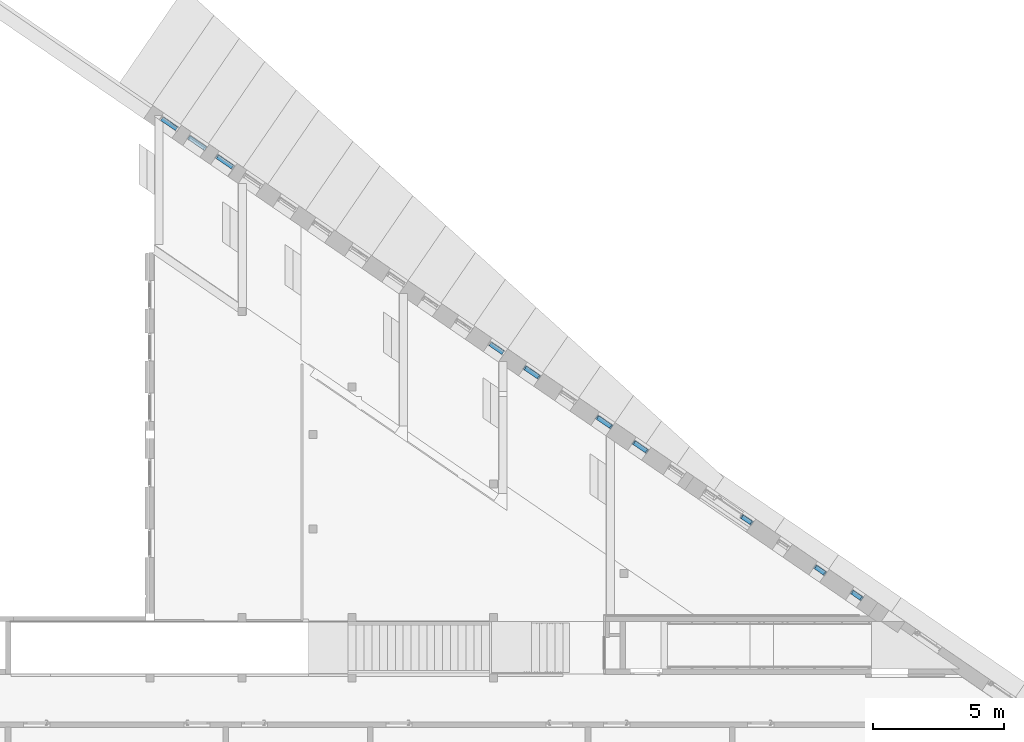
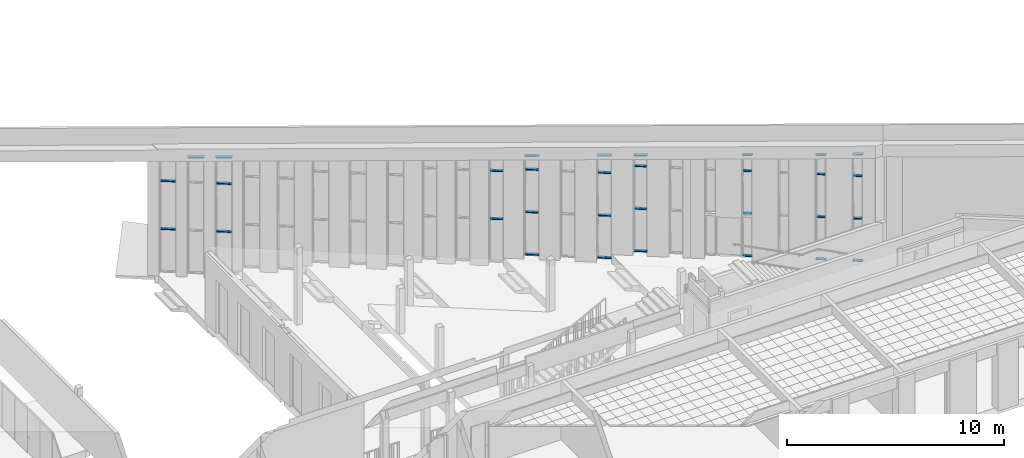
# One storey, part 19 of 79: 32 members, 10 elements without a shape of their own.
"""IFC2X3 building model written with IfcOpenShell, lengths in millimetres."""

from ifc_helpers import new_model, entity, si_unit, converted_unit, derived_unit, money_unit, direction, frame, origin_with_axes, place, context, subcontext, project, spatial, faceted_brep, source, transform, mapped, material, type_object, element, aggregate, save


model = new_model("IFC2X3")

# Units and contexts
model_context = context("Model", 3, precision=0.01, world=origin_with_axes(), true_north=direction((0.0, 1.0)))
body_context = subcontext(model_context, "Body", "Model", "MODEL_VIEW")
ifc_project = project(units=[si_unit("LENGTHUNIT", "METRE", prefix="MILLI"), si_unit("AREAUNIT", "SQUARE_METRE"), si_unit("VOLUMEUNIT", "CUBIC_METRE"), converted_unit("PLANEANGLEUNIT", "DEGREE", entity("IfcPlaneAngleMeasure", 0.0174532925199), si_unit("PLANEANGLEUNIT", "RADIAN"), dimensions=[0, 0, 0, 0, 0, 0, 0]), si_unit("SOLIDANGLEUNIT", "STERADIAN"), money_unit("EUR"), converted_unit("TIMEUNIT", "Year", entity("IfcTimeMeasure", 31556926.0), si_unit("TIMEUNIT", "SECOND"), dimensions=[0, 0, 1, 0, 0, 0, 0]), si_unit("MASSUNIT", "GRAM", prefix="KILO"), si_unit("THERMODYNAMICTEMPERATUREUNIT", "DEGREE_CELSIUS"), si_unit("LUMINOUSINTENSITYUNIT", "LUMEN"), si_unit("ENERGYUNIT", "JOULE", prefix="MEGA"), derived_unit("THERMALCONDUCTANCEUNIT", [(si_unit("POWERUNIT", "WATT"), 1), (si_unit("LENGTHUNIT", "METRE"), -1), (si_unit("THERMODYNAMICTEMPERATUREUNIT", "KELVIN"), -1)]), derived_unit("SPECIFICHEATCAPACITYUNIT", [(si_unit("ENERGYUNIT", "JOULE"), 1), (si_unit("MASSUNIT", "GRAM", prefix="KILO"), -1), (si_unit("THERMODYNAMICTEMPERATUREUNIT", "KELVIN"), -1)]), derived_unit("MASSDENSITYUNIT", [(si_unit("MASSUNIT", "GRAM", prefix="KILO"), 1), (si_unit("VOLUMEUNIT", "CUBIC_METRE"), -1)])], contexts=[model_context])

# Site, building, storey
site_placement = place(None, origin_with_axes())
site = spatial("IfcSite", under=ifc_project, at=site_placement, Name="L.Koidula tn 11b", CompositionType="ELEMENT")
building_placement = place(site_placement, origin_with_axes())
building = spatial("IfcBuilding", under=site, at=building_placement, Name="Rakvere Riigigümnaasium", CompositionType="ELEMENT")
storey_placement = place(building_placement, frame((0.0, 0.0, 3720.0), z_axis=(0.0, 0.0, 1.0), x_axis=(1.0, 0.0, 0.0)))
storey = spatial("IfcBuildingStorey", under=building, at=storey_placement, Name="2.korrus +3,72", CompositionType="ELEMENT", Elevation=3720.0)

# Curtain wall, members
curtain_wall_type = type_object("IfcCurtainWallType", Name="Curtain Wall Type", PredefinedType="NOTDEFINED")
curtain_wall_1_placement = place(storey_placement, frame((76782.8909829, 23814.6943938, 465.0), z_axis=(0.0, 0.0, 1.0), x_axis=(1.0, 0.0, 0.0)))
curtain_wall_1 = element("IfcCurtainWall", 1, at=curtain_wall_1_placement, inside=storey, type_object=curtain_wall_type, Name="KLF-06-07")
ifc_material = material(Name="Alumiiniumprofiil (RAL 7021)")
member_type_1 = type_object("IfcMemberType", Name="Transom Frame 50 x 170", PredefinedType="MULLION")
shared_shape_1 = source(origin_with_axes(), body_context, "Body", "Brep", [
    faceted_brep([(12.0, -26.0, 599.999961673), (12.0, 26.0, 599.999961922), (25.0, 26.0, 599.999961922), (25.0, 46.0, 599.999962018), (-25.0, 46.0, 599.999962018), (-25.0, 26.0, 599.999961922), (-12.0, 26.0, 599.999961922), (-12.0, -26.0, 599.999961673), (-25.0, -26.0, 599.999961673), (-25.0, -124.0, 599.999961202), (25.0, -124.0, 599.999961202), (25.0, -26.0, 599.999961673), (12.0, -26.0, 50.0), (12.0, 26.0, 50.0), (25.0, 26.0, 50.0), (25.0, 46.0, 50.0), (-25.0, 46.0, 50.0), (-25.0, 26.0, 50.0), (-12.0, 26.0, 50.0), (-12.0, -26.0, 50.0), (-25.0, -26.0, 50.0), (-25.0, -124.0, 50.0), (25.0, -124.0, 50.0), (25.0, -26.0, 50.0)], [[[0, 1, 2, 3, 4, 5, 6, 7, 8, 9, 10, 11]], [[0, 12, 13, 1]], [[1, 13, 14, 2]], [[14, 15, 3, 2]], [[4, 3, 15, 16]], [[17, 5, 4, 16]], [[5, 17, 18, 6]], [[7, 6, 18, 19]], [[8, 7, 19, 20]], [[8, 20, 21, 9]], [[10, 9, 21, 22]], [[11, 10, 22, 23]], [[11, 23, 12, 0]], [[13, 12, 23, 22, 21, 20, 19, 18, 17, 16, 15, 14]]]),
])
member_1_placement = place(curtain_wall_1_placement, frame((-268.0166193, 183.826452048, 4800.00006484), z_axis=(0.824666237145, -0.565619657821, 0.0), x_axis=(0.0, 0.0, 1.0)))
member_1 = element("IfcMember", 2, at=member_1_placement, type_object=member_type_1, material=ifc_material, Name="KLF-06-07-Profiilid", ObjectType="MULLION", context=body_context, shape_type="MappedRepresentation", body=[
    mapped(shared_shape_1, transform((0.0, 0.0, 0.0), x_axis=(-1.0, 0.0, 0.0), y_axis=(0.0, -1.0, 0.0), z_axis=(0.0, 0.0, 1.0))),
])
member_2_placement = place(curtain_wall_1_placement, frame((-268.0166193, 183.826452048, 2400.00006484), z_axis=(0.824666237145, -0.565619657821, 0.0), x_axis=(0.0, 0.0, 1.0)))
member_2 = element("IfcMember", 3, at=member_2_placement, type_object=member_type_1, material=ifc_material, Name="KLF-06-07-Profiilid", ObjectType="MULLION", context=body_context, shape_type="MappedRepresentation", body=[
    mapped(shared_shape_1, transform((0.0, 0.0, 0.0), x_axis=(-1.0, 0.0, 0.0), y_axis=(0.0, -1.0, 0.0), z_axis=(0.0, 0.0, 1.0))),
])

curtain_wall_2_placement = place(storey_placement, frame((71295.0958138, 27578.652128, -465.0), z_axis=(0.0, 0.0, 1.0), x_axis=(1.0, 0.0, 0.0)))
curtain_wall_2 = element("IfcCurtainWall", 4, at=curtain_wall_2_placement, inside=storey, type_object=curtain_wall_type, Name="KLF-06-11")
shared_shape_2 = source(origin_with_axes(), body_context, "Body", "Brep", [
    faceted_brep([(12.0, -26.0, 650.000041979), (12.0, 26.0, 650.000042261), (25.0, 26.0, 650.000042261), (25.0, 46.0, 650.00004237), (-25.0, 46.0, 650.00004237), (-25.0, 26.0, 650.000042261), (-12.0, 26.0, 650.000042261), (-12.0, -26.0, 650.000041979), (-25.0, -26.0, 650.000041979), (-25.0, -124.0, 650.000041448), (25.0, -124.0, 650.000041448), (25.0, -26.0, 650.000041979), (12.0, -26.0, 50.0), (12.0, 26.0, 50.0), (25.0, 26.0, 50.0), (25.0, 46.0, 50.0), (-25.0, 46.0, 50.0), (-25.0, 26.0, 50.0), (-12.0, 26.0, 50.0), (-12.0, -26.0, 50.0), (-25.0, -26.0, 50.0), (-25.0, -124.0, 50.0), (25.0, -124.0, 50.0), (25.0, -26.0, 50.0)], [[[0, 1, 2, 3, 4, 5, 6, 7, 8, 9, 10, 11]], [[0, 12, 13, 1]], [[1, 13, 14, 2]], [[14, 15, 3, 2]], [[4, 3, 15, 16]], [[17, 5, 4, 16]], [[5, 17, 18, 6]], [[7, 6, 18, 19]], [[8, 7, 19, 20]], [[8, 20, 21, 9]], [[10, 9, 21, 22]], [[11, 10, 22, 23]], [[11, 23, 12, 0]], [[13, 12, 23, 22, 21, 20, 19, 18, 17, 16, 15, 14]]]),
])
member_3_placement = place(curtain_wall_2_placement, frame((-288.633107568, 197.9668285, 5100.00006484), z_axis=(0.824666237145, -0.565619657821, 0.0), x_axis=(0.0, 0.0, 1.0)))
member_3 = element("IfcMember", 5, at=member_3_placement, type_object=member_type_1, material=ifc_material, Name="KLF-06-11-Profiilid", ObjectType="MULLION", context=body_context, shape_type="MappedRepresentation", body=[
    mapped(shared_shape_2, transform((0.0, 0.0, 0.0), x_axis=(-1.0, 0.0, 0.0), y_axis=(0.0, -1.0, 0.0), z_axis=(0.0, 0.0, 1.0))),
])
member_4_placement = place(curtain_wall_2_placement, frame((-288.633107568, 197.9668285, 2400.00006484), z_axis=(0.824666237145, -0.565619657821, 0.0), x_axis=(0.0, 0.0, 1.0)))
member_4 = element("IfcMember", 6, at=member_4_placement, type_object=member_type_1, material=ifc_material, Name="KLF-06-11-Profiilid", ObjectType="MULLION", context=body_context, shape_type="MappedRepresentation", body=[
    mapped(shared_shape_2, transform((0.0, 0.0, 0.0), x_axis=(-1.0, 0.0, 0.0), y_axis=(0.0, -1.0, 0.0), z_axis=(0.0, 0.0, 1.0))),
])
aggregate(curtain_wall_2, [member_3, member_4])

curtain_wall_3_placement = place(storey_placement, frame((72639.3001548, 26656.6898396, 0.0), z_axis=(0.0, 0.0, 1.0), x_axis=(1.0, 0.0, 0.0)))
curtain_wall_3 = element("IfcCurtainWall", 7, at=curtain_wall_3_placement, inside=storey, type_object=curtain_wall_type, Name="KLF-06-10")
member_5_placement = place(curtain_wall_3_placement, frame((-288.633054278, 197.966791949, 4800.00006484), z_axis=(0.824666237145, -0.565619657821, 0.0), x_axis=(0.0, 0.0, 1.0)))
member_5 = element("IfcMember", 8, at=member_5_placement, type_object=member_type_1, material=ifc_material, Name="KLF-06-10-Profiilid", ObjectType="MULLION", context=body_context, shape_type="MappedRepresentation", body=[
    mapped(shared_shape_2, transform((0.0, 0.0, 0.0), x_axis=(-1.0, 0.0, 0.0), y_axis=(0.0, -1.0, 0.0), z_axis=(0.0, 0.0, 1.0))),
])
member_6_placement = place(curtain_wall_3_placement, frame((-288.633054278, 197.966791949, 2400.00006484), z_axis=(0.824666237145, -0.565619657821, 0.0), x_axis=(0.0, 0.0, 1.0)))
member_6 = element("IfcMember", 9, at=member_6_placement, type_object=member_type_1, material=ifc_material, Name="KLF-06-10-Profiilid", ObjectType="MULLION", context=body_context, shape_type="MappedRepresentation", body=[
    mapped(shared_shape_2, transform((0.0, 0.0, 0.0), x_axis=(-1.0, 0.0, 0.0), y_axis=(0.0, -1.0, 0.0), z_axis=(0.0, 0.0, 1.0))),
])

curtain_wall_4_placement = place(storey_placement, frame((75401.9316286, 24761.8632578, 0.0), z_axis=(0.0, 0.0, 1.0), x_axis=(1.0, 0.0, 0.0)))
curtain_wall_4 = element("IfcCurtainWall", 10, at=curtain_wall_4_placement, inside=storey, type_object=curtain_wall_type, Name="KLF-06-08")
member_7_placement = place(curtain_wall_4_placement, frame((-288.633070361, 197.96680298, 4800.00006484), z_axis=(0.824666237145, -0.565619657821, 0.0), x_axis=(0.0, 0.0, 1.0)))
member_7 = element("IfcMember", 11, at=member_7_placement, type_object=member_type_1, material=ifc_material, Name="KLF-06-08-Profiilid", ObjectType="MULLION", context=body_context, shape_type="MappedRepresentation", body=[
    mapped(shared_shape_2, transform((0.0, 0.0, 0.0), x_axis=(-1.0, 0.0, 0.0), y_axis=(0.0, -1.0, 0.0), z_axis=(0.0, 0.0, 1.0))),
])
member_8_placement = place(curtain_wall_4_placement, frame((-288.633070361, 197.96680298, 2400.00006484), z_axis=(0.824666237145, -0.565619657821, 0.0), x_axis=(0.0, 0.0, 1.0)))
member_8 = element("IfcMember", 12, at=member_8_placement, type_object=member_type_1, material=ifc_material, Name="KLF-06-08-Profiilid", ObjectType="MULLION", context=body_context, shape_type="MappedRepresentation", body=[
    mapped(shared_shape_2, transform((0.0, 0.0, 0.0), x_axis=(-1.0, 0.0, 0.0), y_axis=(0.0, -1.0, 0.0), z_axis=(0.0, 0.0, 1.0))),
])

# Member
member_type_2 = type_object("IfcMemberType", Name="Boundary Frame 50 x 170", PredefinedType="MULLION")
shared_shape_3 = source(origin_with_axes(), body_context, "Body", "Brep", [
    faceted_brep([(-37.0, -26.0, 612.999970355), (-50.0, -26.0, 599.999970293), (-50.0, -124.0, 599.999970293), (0.0, -124.0, 649.999970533), (0.0, 46.0, 649.999970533), (-50.0, 46.0, 599.999970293), (-50.0, 26.0, 599.999970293), (-37.0, 26.0, 612.999970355), (-37.0, -26.0, 37.0), (-50.0, -26.0, 50.0), (-50.0, -124.0, 50.0), (0.0, -124.0, 0.0), (0.0, 46.0, 0.0), (-50.0, 46.0, 50.0), (-50.0, 26.0, 50.0), (-37.0, 26.0, 37.0)], [[[0, 1, 2, 3, 4, 5, 6, 7]], [[0, 8, 9, 1]], [[9, 10, 2, 1]], [[2, 10, 11, 3]], [[3, 11, 12, 4]], [[4, 12, 13, 5]], [[6, 5, 13, 14]], [[14, 15, 7, 6]], [[7, 15, 8, 0]], [[8, 15, 14, 13, 12, 11, 10, 9]]]),
])
member_9_placement = place(curtain_wall_1_placement, frame((-268.016685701, 183.826497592, 0.0), z_axis=(0.824666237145, -0.565619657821, 0.0), x_axis=(0.0, 0.0, 1.0)))
member_9 = element("IfcMember", 13, at=member_9_placement, type_object=member_type_2, material=ifc_material, Name="KLF-06-16-Profiilid", ObjectType="MULLION", context=body_context, shape_type="MappedRepresentation", body=[
    mapped(shared_shape_3, transform((0.0, 0.0, 0.0), x_axis=(-1.0, 0.0, 0.0), y_axis=(0.0, -1.0, 0.0), z_axis=(0.0, 0.0, 1.0))),
])

# Curtain wall, members
curtain_wall_5_placement = place(storey_placement, frame((80844.1957644, 21028.8193943, 465.0), z_axis=(0.0, 0.0, 1.0), x_axis=(1.0, 0.0, 0.0)))
curtain_wall_5 = element("IfcCurtainWall", 14, at=curtain_wall_5_placement, inside=storey, type_object=curtain_wall_type, Name="KLF-06-04")
shared_shape_4 = source(origin_with_axes(), body_context, "Body", "Brep", [
    faceted_brep([(12.0, -26.0, 449.999826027), (12.0, 26.0, 449.999829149), (25.0, 26.0, 449.999829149), (25.0, 46.0, 449.999830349), (-25.0, 46.0, 449.999830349), (-25.0, 26.0, 449.999829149), (-12.0, 26.0, 449.999829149), (-12.0, -26.0, 449.999826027), (-25.0, -26.0, 449.999826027), (-25.0, -124.0, 449.999820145), (25.0, -124.0, 449.999820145), (25.0, -26.0, 449.999826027), (12.0, -26.0, 50.0000065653), (12.0, 26.0, 49.9999934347), (25.0, 26.0, 49.9999934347), (25.0, 46.0, 49.9999883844), (-25.0, 46.0, 49.9999883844), (-25.0, 26.0, 49.9999934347), (-12.0, 26.0, 49.9999934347), (-12.0, -26.0, 50.0000065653), (-25.0, -26.0, 50.0000065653), (-25.0, -124.0, 50.0000313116), (25.0, -124.0, 50.0000313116), (25.0, -26.0, 50.0000065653)], [[[0, 1, 2, 3, 4, 5, 6, 7, 8, 9, 10, 11]], [[0, 12, 13, 1]], [[1, 13, 14, 2]], [[14, 15, 3, 2]], [[4, 3, 15, 16]], [[17, 5, 4, 16]], [[5, 17, 18, 6]], [[7, 6, 18, 19]], [[8, 7, 19, 20]], [[8, 20, 21, 9]], [[10, 9, 21, 22]], [[11, 10, 22, 23]], [[11, 23, 12, 0]], [[13, 12, 23, 22, 21, 20, 19, 18, 17, 16, 15, 14]]]),
])
member_10_placement = place(curtain_wall_5_placement, frame((-206.166336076, 141.404761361, 4800.00006484), z_axis=(0.824666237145, -0.565619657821, 0.0), x_axis=(0.0, 0.0, 1.0)))
member_10 = element("IfcMember", 15, at=member_10_placement, type_object=member_type_1, material=ifc_material, Name="KLF-06-04-Profiilid", ObjectType="MULLION", context=body_context, shape_type="MappedRepresentation", body=[
    mapped(shared_shape_4, transform((0.0, 0.0, 0.0), x_axis=(-1.0, 0.0, 0.0), y_axis=(0.0, -1.0, 0.0), z_axis=(0.0, 0.0, 1.0))),
])
member_11_placement = place(curtain_wall_5_placement, frame((-206.166336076, 141.404761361, 2400.00006484), z_axis=(0.824666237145, -0.565619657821, 0.0), x_axis=(0.0, 0.0, 1.0)))
member_11 = element("IfcMember", 16, at=member_11_placement, type_object=member_type_1, material=ifc_material, Name="KLF-06-04-Profiilid", ObjectType="MULLION", context=body_context, shape_type="MappedRepresentation", body=[
    mapped(shared_shape_4, transform((0.0, 0.0, 0.0), x_axis=(-1.0, 0.0, 0.0), y_axis=(0.0, -1.0, 0.0), z_axis=(0.0, 0.0, 1.0))),
])

curtain_wall_6_placement = place(storey_placement, frame((83648.21223, 19105.9329046, 464.999957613), z_axis=(0.0, 0.0, 1.0), x_axis=(1.0, 0.0, 0.0)))
curtain_wall_6 = element("IfcCurtainWall", 17, at=curtain_wall_6_placement, inside=storey, type_object=curtain_wall_type, Name="KLF-06-02")
member_12_placement = place(curtain_wall_6_placement, frame((-206.166491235, 141.40486778, 4800.00010722), z_axis=(0.824666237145, -0.565619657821, 0.0), x_axis=(0.0, 0.0, 1.0)))
member_12 = element("IfcMember", 18, at=member_12_placement, type_object=member_type_1, material=ifc_material, Name="KLF-06-36-Profiilid", ObjectType="MULLION", context=body_context, shape_type="MappedRepresentation", body=[
    mapped(shared_shape_4, transform((0.0, 0.0, 0.0), x_axis=(-1.0, 0.0, 0.0), y_axis=(0.0, -1.0, 0.0), z_axis=(0.0, 0.0, 1.0))),
])
member_13_placement = place(curtain_wall_6_placement, frame((-206.166491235, 141.40486778, 2400.00010722), z_axis=(0.824666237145, -0.565619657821, 0.0), x_axis=(0.0, 0.0, 1.0)))
member_13 = element("IfcMember", 19, at=member_13_placement, type_object=member_type_1, material=ifc_material, Name="KLF-06-37-Profiilid", ObjectType="MULLION", context=body_context, shape_type="MappedRepresentation", body=[
    mapped(shared_shape_4, transform((0.0, 0.0, 0.0), x_axis=(-1.0, 0.0, 0.0), y_axis=(0.0, -1.0, 0.0), z_axis=(0.0, 0.0, 1.0))),
])

curtain_wall_7_placement = place(storey_placement, frame((85050.1449307, 18144.3794194, 464.999921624), z_axis=(0.0, 0.0, 1.0), x_axis=(1.0, 0.0, 0.0)))
curtain_wall_7 = element("IfcCurtainWall", 20, at=curtain_wall_7_placement, inside=storey, type_object=curtain_wall_type, Name="KLF-06-01")
member_14_placement = place(curtain_wall_7_placement, frame((-206.166494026, 141.404869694, 2400.00014321), z_axis=(0.824666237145, -0.565619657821, 0.0), x_axis=(0.0, 0.0, 1.0)))
member_14 = element("IfcMember", 21, at=member_14_placement, type_object=member_type_1, material=ifc_material, Name="KLF-06-01-Profiilid", ObjectType="MULLION", context=body_context, shape_type="MappedRepresentation", body=[
    mapped(shared_shape_4, transform((0.0, 0.0, 0.0), x_axis=(-1.0, 0.0, 0.0), y_axis=(0.0, -1.0, 0.0), z_axis=(0.0, 0.0, 1.0))),
])
member_15_placement = place(curtain_wall_7_placement, frame((-206.166494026, 141.404869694, 4800.00014321), z_axis=(0.824666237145, -0.565619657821, 0.0), x_axis=(0.0, 0.0, 1.0)))
member_15 = element("IfcMember", 22, at=member_15_placement, type_object=member_type_1, material=ifc_material, Name="KLF-06-01-Profiilid", ObjectType="MULLION", context=body_context, shape_type="MappedRepresentation", body=[
    mapped(shared_shape_4, transform((0.0, 0.0, 0.0), x_axis=(-1.0, 0.0, 0.0), y_axis=(0.0, -1.0, 0.0), z_axis=(0.0, 0.0, 1.0))),
])

# Member
shared_shape_5 = source(origin_with_axes(), body_context, "Body", "Brep", [
    faceted_brep([(-37.0, -26.0, 663.000011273), (-50.0, -26.0, 650.000011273), (-50.0, -124.0, 650.000011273), (0.0, -124.0, 700.000011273), (0.0, 46.0, 700.000011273), (-50.0, 46.0, 650.000011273), (-50.0, 26.0, 650.000011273), (-37.0, 26.0, 663.000011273), (-37.0, -26.0, 37.0000013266), (-50.0, -26.0, 50.0000017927), (-50.0, -124.0, 50.0000017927), (0.0, -124.0, 0.0), (0.0, 46.0, 0.0), (-50.0, 46.0, 50.0000017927), (-50.0, 26.0, 50.0000017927), (-37.0, 26.0, 37.0000013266)], [[[0, 1, 2, 3, 4, 5, 6, 7]], [[0, 8, 9, 1]], [[9, 10, 2, 1]], [[2, 10, 11, 3]], [[3, 11, 12, 4]], [[4, 12, 13, 5]], [[6, 5, 13, 14]], [[14, 15, 7, 6]], [[7, 15, 8, 0]], [[8, 15, 14, 13, 12, 11, 10, 9]]]),
])
member_16_placement = place(curtain_wall_3_placement, frame((-288.633122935, 197.966839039, 0.0), z_axis=(0.824666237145, -0.565619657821, 0.0), x_axis=(0.0, 0.0, 1.0)))
member_16 = element("IfcMember", 23, at=member_16_placement, type_object=member_type_2, material=ifc_material, Name="KLF-06-19-Profiilid", ObjectType="MULLION", context=body_context, shape_type="MappedRepresentation", body=[
    mapped(shared_shape_5, transform((0.0, 0.0, 0.0), x_axis=(-1.0, 0.0, 0.0), y_axis=(0.0, -1.0, 0.0), z_axis=(0.0, 0.0, 1.0))),
])

member_17_placement = place(curtain_wall_4_placement, frame((-288.633141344, 197.966851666, 0.0), z_axis=(0.824666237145, -0.565619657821, 0.0), x_axis=(0.0, 0.0, 1.0)))
member_17 = element("IfcMember", 24, at=member_17_placement, type_object=member_type_2, material=ifc_material, Name="KLF-06-16-Profiilid", ObjectType="MULLION", context=body_context, shape_type="MappedRepresentation", body=[
    mapped(shared_shape_5, transform((0.0, 0.0, 0.0), x_axis=(-1.0, 0.0, 0.0), y_axis=(0.0, -1.0, 0.0), z_axis=(0.0, 0.0, 1.0))),
])

shared_shape_6 = source(origin_with_axes(), body_context, "Body", "Brep", [
    faceted_brep([(-37.0, -26.0, 666.369227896), (-50.0, -26.0, 654.118960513), (-50.0, -124.0, 654.118960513), (0.0, -124.0, 701.235373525), (0.0, 46.0, 701.235373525), (-50.0, 46.0, 654.118960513), (-50.0, 26.0, 654.118960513), (-37.0, 26.0, 666.369227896), (-37.0, -26.0, 39.2644477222), (-50.0, -26.0, 53.0600644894), (-50.0, -124.0, 53.0600644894), (0.0, -124.0, 0.0), (0.0, 46.0, 0.0), (-50.0, 46.0, 53.0600644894), (-50.0, 26.0, 53.0600644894), (-37.0, 26.0, 39.2644477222)], [[[0, 1, 2, 3, 4, 5, 6, 7]], [[0, 8, 9, 1]], [[9, 10, 2, 1]], [[2, 10, 11, 3]], [[3, 11, 12, 4]], [[4, 12, 13, 5]], [[6, 5, 13, 14]], [[14, 15, 7, 6]], [[7, 15, 8, 0]], [[8, 15, 14, 13, 12, 11, 10, 9]]]),
])
member_18_placement = place(curtain_wall_3_placement, frame((288.633131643, -197.966845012, 5606.82881635), z_axis=(-0.823213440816, 0.564623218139, -0.0593317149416), x_axis=(0.0489288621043, -0.0335591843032, -0.998238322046)))
member_18 = element("IfcMember", 25, at=member_18_placement, type_object=member_type_2, material=ifc_material, Name="KLF-06-23-Profiilid", ObjectType="MULLION", context=body_context, shape_type="MappedRepresentation", body=[
    mapped(shared_shape_6, transform((0.0, 0.0, 0.0), x_axis=(-1.0, 0.0, 0.0), y_axis=(0.0, -1.0, 0.0), z_axis=(0.0, 0.0, 1.0))),
])

aggregate(curtain_wall_3, [member_5, member_6, member_16, member_18])

member_19_placement = place(curtain_wall_4_placement, frame((288.633088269, -197.966815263, 5805.94116679), z_axis=(-0.823213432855, 0.564623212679, -0.0593318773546), x_axis=(0.0489289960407, -0.0335592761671, -0.998238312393)))
member_19 = element("IfcMember", 26, at=member_19_placement, type_object=member_type_2, material=ifc_material, Name="KLF-06-20-Profiilid", ObjectType="MULLION", context=body_context, shape_type="MappedRepresentation", body=[
    mapped(shared_shape_6, transform((0.0, 0.0, 0.0), x_axis=(-1.0, 0.0, 0.0), y_axis=(0.0, -1.0, 0.0), z_axis=(0.0, 0.0, 1.0))),
])

aggregate(curtain_wall_4, [member_7, member_8, member_17, member_19])

shared_shape_7 = source(origin_with_axes(), body_context, "Body", "Brep", [
    faceted_brep([(-37.0, -26.0, 462.99968442), (-50.0, -26.0, 449.999684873), (-50.0, -124.0, 449.999684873), (0.0, -124.0, 499.999683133), (0.0, 46.0, 499.999683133), (-50.0, 46.0, 449.999684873), (-50.0, 26.0, 449.999684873), (-37.0, 26.0, 462.99968442), (-37.0, -26.0, 37.0000012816), (-50.0, -26.0, 50.0000017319), (-50.0, -124.0, 50.0000017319), (0.0, -124.0, 0.0), (0.0, 46.0, 0.0), (-50.0, 46.0, 50.0000017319), (-50.0, 26.0, 50.0000017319), (-37.0, 26.0, 37.0000012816)], [[[0, 1, 2, 3, 4, 5, 6, 7]], [[0, 8, 9, 1]], [[9, 10, 2, 1]], [[2, 10, 11, 3]], [[3, 11, 12, 4]], [[4, 12, 13, 5]], [[6, 5, 13, 14]], [[14, 15, 7, 6]], [[7, 15, 8, 0]], [[8, 15, 14, 13, 12, 11, 10, 9]]]),
])
member_20_placement = place(curtain_wall_5_placement, frame((-206.166336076, 141.404761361, 0.0), z_axis=(0.824666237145, -0.565619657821, 0.0), x_axis=(0.0, 0.0, 1.0)))
member_20 = element("IfcMember", 27, at=member_20_placement, type_object=member_type_2, material=ifc_material, Name="KLF-06-13-Profiilid", ObjectType="MULLION", context=body_context, shape_type="MappedRepresentation", body=[
    mapped(shared_shape_7, transform((0.0, 0.0, 0.0), x_axis=(-1.0, 0.0, 0.0), y_axis=(0.0, -1.0, 0.0), z_axis=(0.0, 0.0, 1.0))),
])

member_21_placement = place(curtain_wall_6_placement, frame((-206.166491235, 141.40486778, 0.0), z_axis=(0.824666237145, -0.565619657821, 0.0), x_axis=(0.0, 0.0, 1.0)))
member_21 = element("IfcMember", 28, at=member_21_placement, type_object=member_type_2, material=ifc_material, Name="KLF-06-04-Profiilid", ObjectType="MULLION", context=body_context, shape_type="MappedRepresentation", body=[
    mapped(shared_shape_7, transform((0.0, 0.0, 0.0), x_axis=(-1.0, 0.0, 0.0), y_axis=(0.0, -1.0, 0.0), z_axis=(0.0, 0.0, 1.0))),
])

member_22_placement = place(curtain_wall_7_placement, frame((-206.166494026, 141.404869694, 0.0), z_axis=(0.824666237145, -0.565619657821, 0.0), x_axis=(0.0, 0.0, 1.0)))
member_22 = element("IfcMember", 29, at=member_22_placement, type_object=member_type_2, material=ifc_material, Name="KLF-06-09-Profiilid", ObjectType="MULLION", context=body_context, shape_type="MappedRepresentation", body=[
    mapped(shared_shape_7, transform((0.0, 0.0, 0.0), x_axis=(-1.0, 0.0, 0.0), y_axis=(0.0, -1.0, 0.0), z_axis=(0.0, 0.0, 1.0))),
])

shared_shape_8 = source(origin_with_axes(), body_context, "Body", "Brep", [
    faceted_brep([(-37.0, -26.0, 466.016149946), (-50.0, -26.0, 453.765878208), (-50.0, -124.0, 453.765878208), (0.0, -124.0, 500.882307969), (0.0, 46.0, 500.882307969), (-50.0, 46.0, 453.765878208), (-50.0, 26.0, 453.765878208), (-37.0, 26.0, 466.016149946), (-37.0, -26.0, 39.2644396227), (-50.0, -26.0, 53.0600535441), (-50.0, -124.0, 53.0600535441), (0.0, -124.0, 0.0), (0.0, 46.0, 0.0), (-50.0, 46.0, 53.0600535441), (-50.0, 26.0, 53.0600535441), (-37.0, 26.0, 39.2644396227)], [[[0, 1, 2, 3, 4, 5, 6, 7]], [[0, 8, 9, 1]], [[9, 10, 2, 1]], [[2, 10, 11, 3]], [[3, 11, 12, 4]], [[4, 12, 13, 5]], [[6, 5, 13, 14]], [[14, 15, 7, 6]], [[7, 15, 8, 0]], [[8, 15, 14, 13, 12, 11, 10, 9]]]),
])
member_23_placement = place(curtain_wall_5_placement, frame((206.166460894, -141.40484697, 5727.25077068), z_axis=(-0.823213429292, 0.564623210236, -0.0593319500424), x_axis=(0.0489290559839, -0.0335593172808, -0.998238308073)))
member_23 = element("IfcMember", 30, at=member_23_placement, type_object=member_type_2, material=ifc_material, Name="KLF-06-17-Profiilid", ObjectType="MULLION", context=body_context, shape_type="MappedRepresentation", body=[
    mapped(shared_shape_8, transform((0.0, 0.0, 0.0), x_axis=(-1.0, 0.0, 0.0), y_axis=(0.0, -1.0, 0.0), z_axis=(0.0, 0.0, 1.0))),
])

aggregate(curtain_wall_5, [member_10, member_11, member_20, member_23])

member_24_placement = place(curtain_wall_6_placement, frame((206.166557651, -141.404913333, 5929.3348606), z_axis=(-0.823213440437, 0.56462321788, -0.0593317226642), x_axis=(0.0489288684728, -0.0335591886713, -0.998238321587)))
member_24 = element("IfcMember", 31, at=member_24_placement, type_object=member_type_2, material=ifc_material, Name="KLF-06-08-Profiilid", ObjectType="MULLION", context=body_context, shape_type="MappedRepresentation", body=[
    mapped(shared_shape_8, transform((0.0, 0.0, 0.0), x_axis=(-1.0, 0.0, 0.0), y_axis=(0.0, -1.0, 0.0), z_axis=(0.0, 0.0, 1.0))),
])

aggregate(curtain_wall_6, [member_12, member_13, member_21, member_24])

member_25_placement = place(curtain_wall_7_placement, frame((206.166464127, -141.404849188, 6030.37703232), z_axis=(-0.823213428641, 0.564623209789, -0.0593319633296), x_axis=(0.0489290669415, -0.0335593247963, -0.998238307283)))
member_25 = element("IfcMember", 32, at=member_25_placement, type_object=member_type_2, material=ifc_material, Name="KLF-06-13-Profiilid", ObjectType="MULLION", context=body_context, shape_type="MappedRepresentation", body=[
    mapped(shared_shape_8, transform((0.0, 0.0, 0.0), x_axis=(-1.0, 0.0, 0.0), y_axis=(0.0, -1.0, 0.0), z_axis=(0.0, 0.0, 1.0))),
])

aggregate(curtain_wall_7, [member_14, member_15, member_22, member_25])

# Curtain wall, members
curtain_wall_8_placement = place(storey_placement, frame((58784.8898209, 36159.1031473, -1860.00002162), z_axis=(0.0, 0.0, 1.0), x_axis=(1.0, 0.0, 0.0)))
curtain_wall_8 = element("IfcCurtainWall", 33, at=curtain_wall_8_placement, inside=storey, type_object=curtain_wall_type, Name="KLF-06-21")
shared_shape_9 = source(origin_with_axes(), body_context, "Body", "Brep", [
    faceted_brep([(12.0, -26.0, 739.574150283), (12.0, 26.0, 739.57415061), (25.0, 26.0, 739.57415061), (25.0, 46.0, 739.574150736), (-25.0, 46.0, 739.574150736), (-25.0, 26.0, 739.57415061), (-12.0, 26.0, 739.57415061), (-12.0, -26.0, 739.574150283), (-25.0, -26.0, 739.574150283), (-25.0, -124.0, 739.574149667), (25.0, -124.0, 739.574149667), (25.0, -26.0, 739.574150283), (12.0, -26.0, 50.0000025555), (12.0, 26.0, 49.9999974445), (25.0, 26.0, 49.9999974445), (25.0, 46.0, 49.9999954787), (-25.0, 46.0, 49.9999954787), (-25.0, 26.0, 49.9999974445), (-12.0, 26.0, 49.9999974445), (-12.0, -26.0, 50.0000025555), (-25.0, -26.0, 50.0000025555), (-25.0, -124.0, 50.0000121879), (25.0, -124.0, 50.0000121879), (25.0, -26.0, 50.0000025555)], [[[0, 1, 2, 3, 4, 5, 6, 7, 8, 9, 10, 11]], [[0, 12, 13, 1]], [[1, 13, 14, 2]], [[14, 15, 3, 2]], [[4, 3, 15, 16]], [[17, 5, 4, 16]], [[5, 17, 18, 6]], [[7, 6, 18, 19]], [[8, 7, 19, 20]], [[8, 20, 21, 9]], [[10, 9, 21, 22]], [[11, 10, 22, 23]], [[11, 23, 12, 0]], [[13, 12, 23, 22, 21, 20, 19, 18, 17, 16, 15, 14]]]),
])
member_26_placement = place(curtain_wall_8_placement, frame((-325.56754319, 223.299310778, 5100.00007855), z_axis=(0.824666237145, -0.565619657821, 0.0), x_axis=(0.0, 0.0, 1.0)))
member_26 = element("IfcMember", 34, at=member_26_placement, type_object=member_type_1, material=ifc_material, Name="KLF-06-21-Profiilid", ObjectType="MULLION", context=body_context, shape_type="MappedRepresentation", body=[
    mapped(shared_shape_9, transform((0.0, 0.0, 0.0), x_axis=(-1.0, 0.0, 0.0), y_axis=(0.0, -1.0, 0.0), z_axis=(0.0, 0.0, 1.0))),
])
member_27_placement = place(curtain_wall_8_placement, frame((-325.567622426, 223.299365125, 2400.00007855), z_axis=(0.824666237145, -0.565619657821, 0.0), x_axis=(0.0, 0.0, 1.0)))
member_27 = element("IfcMember", 35, at=member_27_placement, type_object=member_type_1, material=ifc_material, Name="KLF-06-21-Profiilid", ObjectType="MULLION", context=body_context, shape_type="MappedRepresentation", body=[
    mapped(shared_shape_9, transform((0.0, 0.0, 0.0), x_axis=(-1.0, 0.0, 0.0), y_axis=(0.0, -1.0, 0.0), z_axis=(0.0, 0.0, 1.0))),
])
aggregate(curtain_wall_8, [member_26, member_27])

# Curtain wall, member
curtain_wall_9_placement = place(storey_placement, frame((59849.7544247, 35428.7459613, -1860.00000854), z_axis=(0.0, 0.0, 1.0), x_axis=(1.0, 0.0, 0.0)))
curtain_wall_9 = element("IfcCurtainWall", 36, at=curtain_wall_9_placement, inside=storey, type_object=curtain_wall_type, Name="KLF-06-20")
shared_shape_10 = source(origin_with_axes(), body_context, "Body", "Brep", [
    faceted_brep([(-37.0, -26.0, 756.527717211), (-50.0, -26.0, 744.277452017), (-50.0, -124.0, 744.277452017), (0.0, -124.0, 791.393856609), (0.0, 46.0, 791.393856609), (-50.0, 46.0, 744.277452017), (-50.0, 26.0, 744.277452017), (-37.0, 26.0, 756.527717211), (-37.0, -26.0, 39.2644430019), (-50.0, -26.0, 53.0600581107), (-50.0, -124.0, 53.0600581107), (0.0, -124.0, 0.0), (0.0, 46.0, 0.0), (-50.0, 46.0, 53.0600581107), (-50.0, 26.0, 53.0600581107), (-37.0, 26.0, 39.2644430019)], [[[0, 1, 2, 3, 4, 5, 6, 7]], [[0, 8, 9, 1]], [[9, 10, 2, 1]], [[2, 10, 11, 3]], [[3, 11, 12, 4]], [[4, 12, 13, 5]], [[6, 5, 13, 14]], [[14, 15, 7, 6]], [[7, 15, 8, 0]], [[8, 15, 14, 13, 12, 11, 10, 9]]]),
])
member_28_placement = place(curtain_wall_9_placement, frame((325.636838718, -223.346838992, 6547.70965446), z_axis=(-0.823213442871, 0.564623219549, -0.0593316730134), x_axis=(0.0489288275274, -0.0335591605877, -0.998238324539)))
member_28 = element("IfcMember", 37, at=member_28_placement, type_object=member_type_2, material=ifc_material, Name="KLF-06-51-Profiilid", ObjectType="MULLION", context=body_context, shape_type="MappedRepresentation", body=[
    mapped(shared_shape_10, transform((0.0, 0.0, 0.0), x_axis=(-1.0, 0.0, 0.0), y_axis=(0.0, -1.0, 0.0), z_axis=(0.0, 0.0, 1.0))),
])
aggregate(curtain_wall_9, [member_28])

# Curtain wall, members
curtain_wall_10_placement = place(storey_placement, frame((60913.4534613, 34699.1792069, -1860.00008737), z_axis=(0.0, 0.0, 1.0), x_axis=(1.0, 0.0, 0.0)))
curtain_wall_10 = element("IfcCurtainWall", 38, at=curtain_wall_10_placement, inside=storey, type_object=curtain_wall_type, Name="KLF-06-19")
member_29_placement = place(curtain_wall_10_placement, frame((325.743318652, -223.419871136, 6624.38187404), z_axis=(-0.823213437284, 0.564623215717, -0.0593317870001), x_axis=(0.0489289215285, -0.0335592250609, -0.998238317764)))
member_29 = element("IfcMember", 39, at=member_29_placement, type_object=member_type_2, material=ifc_material, Name="KLF-06-66-Profiilid", ObjectType="MULLION", context=body_context, shape_type="MappedRepresentation", body=[
    mapped(shared_shape_10, transform((0.0, 0.0, 0.0), x_axis=(-1.0, 0.0, 0.0), y_axis=(0.0, -1.0, 0.0), z_axis=(0.0, 0.0, 1.0))),
])
shared_shape_11 = source(origin_with_axes(), body_context, "Body", "Brep", [
    faceted_brep([(12.0, -26.0, 739.999943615), (12.0, 26.0, 739.999949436), (25.0, 26.0, 739.999949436), (25.0, 46.0, 739.999951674), (-25.0, 46.0, 739.999951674), (-25.0, 26.0, 739.999949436), (-12.0, 26.0, 739.999949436), (-12.0, -26.0, 739.999943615), (-25.0, -26.0, 739.999943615), (-25.0, -124.0, 739.999932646), (25.0, -124.0, 739.999932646), (25.0, -26.0, 739.999943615), (12.0, -26.0, 50.0000007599), (12.0, 26.0, 49.9999992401), (25.0, 26.0, 49.9999992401), (25.0, 46.0, 49.9999986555), (-25.0, 46.0, 49.9999986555), (-25.0, 26.0, 49.9999992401), (-12.0, 26.0, 49.9999992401), (-12.0, -26.0, 50.0000007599), (-25.0, -26.0, 50.0000007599), (-25.0, -124.0, 50.0000036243), (25.0, -124.0, 50.0000036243), (25.0, -26.0, 50.0000007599)], [[[0, 1, 2, 3, 4, 5, 6, 7, 8, 9, 10, 11]], [[0, 12, 13, 1]], [[1, 13, 14, 2]], [[14, 15, 3, 2]], [[4, 3, 15, 16]], [[17, 5, 4, 16]], [[5, 17, 18, 6]], [[7, 6, 18, 19]], [[8, 7, 19, 20]], [[8, 20, 21, 9]], [[10, 9, 21, 22]], [[11, 10, 22, 23]], [[11, 23, 12, 0]], [[13, 12, 23, 22, 21, 20, 19, 18, 17, 16, 15, 14]]]),
])
member_30_placement = place(curtain_wall_10_placement, frame((-325.743105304, 223.419724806, 5100.0001443), z_axis=(0.824666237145, -0.565619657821, 0.0), x_axis=(0.0, 0.0, 1.0)))
member_30 = element("IfcMember", 40, at=member_30_placement, type_object=member_type_1, material=ifc_material, Name="KLF-06-33-Profiilid", ObjectType="MULLION", context=body_context, shape_type="MappedRepresentation", body=[
    mapped(shared_shape_11, transform((0.0, 0.0, 0.0), x_axis=(-1.0, 0.0, 0.0), y_axis=(0.0, -1.0, 0.0), z_axis=(0.0, 0.0, 1.0))),
])
member_31_placement = place(curtain_wall_10_placement, frame((-325.743105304, 223.419724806, 2400.0001443), z_axis=(0.824666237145, -0.565619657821, 0.0), x_axis=(0.0, 0.0, 1.0)))
member_31 = element("IfcMember", 41, at=member_31_placement, type_object=member_type_1, material=ifc_material, Name="KLF-06-34-Profiilid", ObjectType="MULLION", context=body_context, shape_type="MappedRepresentation", body=[
    mapped(shared_shape_11, transform((0.0, 0.0, 0.0), x_axis=(-1.0, 0.0, 0.0), y_axis=(0.0, -1.0, 0.0), z_axis=(0.0, 0.0, 1.0))),
])
aggregate(curtain_wall_10, [member_30, member_31, member_29])

# Member
shared_shape_12 = source(origin_with_axes(), body_context, "Body", "Brep", [
    faceted_brep([(-37.0, -26.0, 616.280956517), (-50.0, -26.0, 604.030699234), (-50.0, -124.0, 604.030699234), (0.0, -124.0, 651.147073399), (0.0, 46.0, 651.147073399), (-50.0, 46.0, 604.030699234), (-50.0, 26.0, 604.030699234), (-37.0, 26.0, 616.280956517), (-37.0, -26.0, 39.2644517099), (-50.0, -26.0, 53.0600698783), (-50.0, -124.0, 53.0600698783), (0.0, -124.0, 0.0), (0.0, 46.0, 0.0), (-50.0, 46.0, 53.0600698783), (-50.0, 26.0, 53.0600698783), (-37.0, 26.0, 39.2644517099)], [[[0, 1, 2, 3, 4, 5, 6, 7]], [[0, 8, 9, 1]], [[9, 10, 2, 1]], [[2, 10, 11, 3]], [[3, 11, 12, 4]], [[4, 12, 13, 5]], [[6, 5, 13, 14]], [[14, 15, 7, 6]], [[7, 15, 8, 0]], [[8, 15, 14, 13, 12, 11, 10, 9]]]),
])
member_32_placement = place(curtain_wall_1_placement, frame((268.016772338, -183.826557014, 5438.98573295), z_axis=(-0.82321343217, 0.564623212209, -0.059331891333), x_axis=(0.0489290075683, -0.0335592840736, -0.998238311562)))
member_32 = element("IfcMember", 42, at=member_32_placement, type_object=member_type_2, material=ifc_material, Name="KLF-06-20-Profiilid", ObjectType="MULLION", context=body_context, shape_type="MappedRepresentation", body=[
    mapped(shared_shape_12, transform((0.0, 0.0, 0.0), x_axis=(-1.0, 0.0, 0.0), y_axis=(0.0, -1.0, 0.0), z_axis=(0.0, 0.0, 1.0))),
])

aggregate(curtain_wall_1, [member_1, member_2, member_9, member_32])

save(model, "model.ifc")
